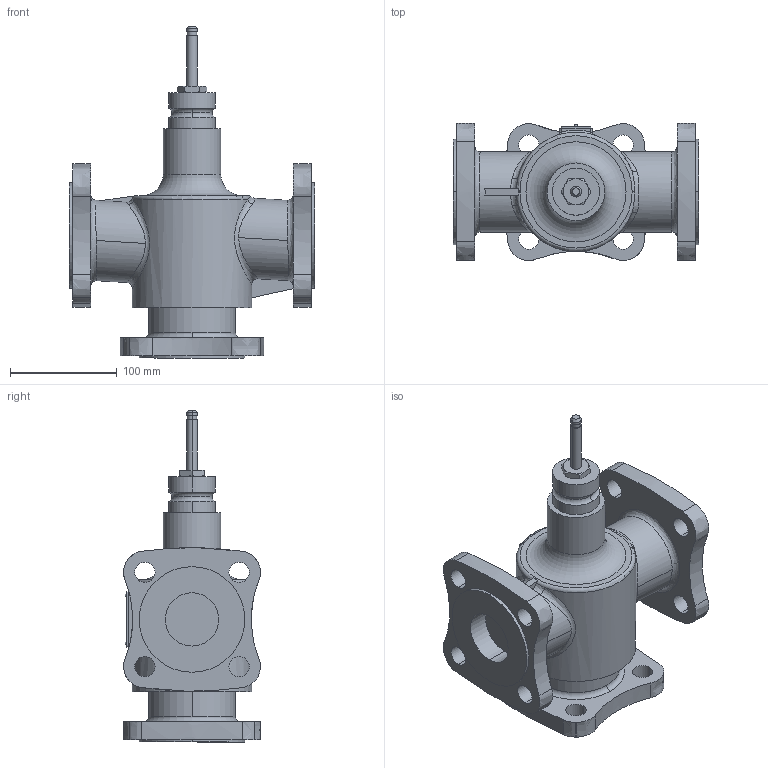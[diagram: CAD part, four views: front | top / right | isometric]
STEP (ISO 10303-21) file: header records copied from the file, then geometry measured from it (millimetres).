
FILE_DESCRIPTION(/* description */ ('Step214'),/* implementation_level */ '2;1');
FILE_NAME(/* name */ 'VXF53 DN50 RF.stp',/* time_stamp */ '2015-11-04T15:07:31+01:00',/* author */ (''),/* organization */ ('Siemens'),/* preprocessor_version */ 'ST-DEVELOPER v15',/* originating_system */ 'SIEMENS PLM Software NX 8.5',/* authorisation */ 'for Duktil only');
FILE_SCHEMA (('AUTOMOTIVE_DESIGN { 1 0 10303 214 3 1 1 1 }'));
Length unit declared in the file: millimetre
Products named in the file (1): Volc0CEC07D0agp4
Bounding box: 230 x 128.38 x 311.49 mm (x, y, z)
Volume: 2479406.3 mm3; surface area: 208290.5 mm2
Topology: 1 solids, 1 shells, 179 faces, 463 edges, 303 vertices
Faces by surface type: cylinder 72, plane 46, extrusion 30, bspline 12, torus 11, cone 6, sphere 2
Full cylindrical faces by diameter (mm): 54 x1
Entity records: 8697 total; most frequent: CARTESIAN_POINT 4428, ORIENTED_EDGE 908, DIRECTION 808, EDGE_CURVE 454, AXIS2_PLACEMENT_3D 311, VERTEX_POINT 300, EDGE_LOOP 226, VECTOR 186
